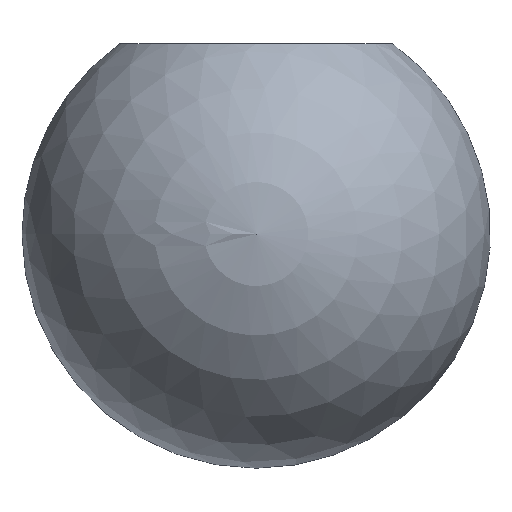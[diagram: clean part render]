
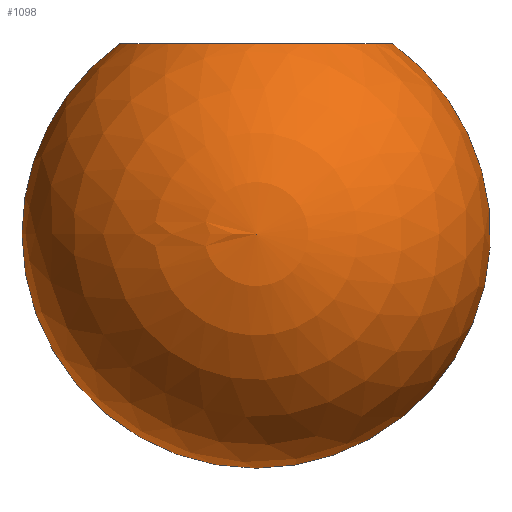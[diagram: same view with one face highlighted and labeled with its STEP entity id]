
A CAD part, left-side view. The second image highlights one B-rep face of the part: STEP entity #1098.
In plain terms, the highlighted spherical face has radius 16 mm.
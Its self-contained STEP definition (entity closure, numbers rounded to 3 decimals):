
#26 = EDGE_CURVE ( 'NONE', #2793, #3736, #966, .T. ) ;
#143 = CARTESIAN_POINT ( 'NONE',  ( 0., 0., -13. ) ) ;
#172 = CARTESIAN_POINT ( 'NONE',  ( 0., 0., -13. ) ) ;
#274 = ORIENTED_EDGE ( 'NONE', *, *, #2796, .F. ) ;
#459 = DIRECTION ( 'NONE',  ( 0., 0., 1. ) ) ;
#595 = DIRECTION ( 'NONE',  ( 0., 0., -1. ) ) ;
#725 = CARTESIAN_POINT ( 'NONE',  ( 0., 0., -13. ) ) ;
#966 = CIRCLE ( 'NONE', #2991, 16. ) ;
#995 = DIRECTION ( 'NONE',  ( -1., 0., 0. ) ) ;
#1098 = ADVANCED_FACE ( 'NONE', ( #4588 ), #3190, .T. ) ;
#1119 = CIRCLE ( 'NONE', #3880, 9.327 ) ;
#1273 = CARTESIAN_POINT ( 'NONE',  ( 0., 9.327, 0. ) ) ;
#1322 = DIRECTION ( 'NONE',  ( 0., 1., 0. ) ) ;
#1361 = AXIS2_PLACEMENT_3D ( 'NONE', #172, #3627, #3991 ) ;
#1839 = ORIENTED_EDGE ( 'NONE', *, *, #3723, .T. ) ;
#1954 = DIRECTION ( 'NONE',  ( 1., 0., 0. ) ) ;
#2030 = CARTESIAN_POINT ( 'NONE',  ( 0., 0., -29. ) ) ;
#2294 = AXIS2_PLACEMENT_3D ( 'NONE', #143, #995, #1322 ) ;
#2368 = CIRCLE ( 'NONE', #1361, 16. ) ;
#2793 = VERTEX_POINT ( 'NONE', #2030 ) ;
#2796 = EDGE_CURVE ( 'NONE', #3736, #4311, #1119, .T. ) ;
#2991 = AXIS2_PLACEMENT_3D ( 'NONE', #725, #3603, #595 ) ;
#3180 = EDGE_LOOP ( 'NONE', ( #3804, #1839, #274 ) ) ;
#3190 = SPHERICAL_SURFACE ( 'NONE', #2294, 16. ) ;
#3427 = CARTESIAN_POINT ( 'NONE',  ( 0., 0., 0. ) ) ;
#3603 = DIRECTION ( 'NONE',  ( 1., 0., 0. ) ) ;
#3627 = DIRECTION ( 'NONE',  ( -1., 0., 0. ) ) ;
#3723 = EDGE_CURVE ( 'NONE', #2793, #4311, #2368, .T. ) ;
#3736 = VERTEX_POINT ( 'NONE', #1273 ) ;
#3804 = ORIENTED_EDGE ( 'NONE', *, *, #26, .F. ) ;
#3880 = AXIS2_PLACEMENT_3D ( 'NONE', #3427, #459, #1954 ) ;
#3991 = DIRECTION ( 'NONE',  ( 0., -1., 0. ) ) ;
#4115 = CARTESIAN_POINT ( 'NONE',  ( 0., -9.327, 0. ) ) ;
#4311 = VERTEX_POINT ( 'NONE', #4115 ) ;
#4588 = FACE_OUTER_BOUND ( 'NONE', #3180, .T. ) ;
